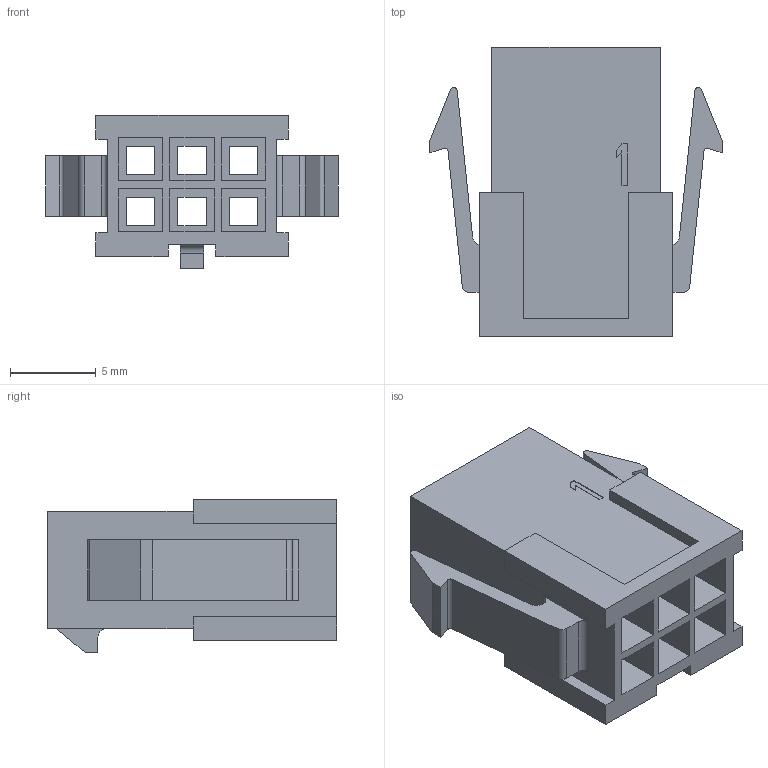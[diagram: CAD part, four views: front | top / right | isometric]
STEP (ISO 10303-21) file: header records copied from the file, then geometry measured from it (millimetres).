
FILE_DESCRIPTION((''),'2;1');
FILE_NAME('430200600','2020-04-30T',('gga'),(''),'PRO/ENGINEER BY PARAMETRIC TECHNOLOGY CORPORATION, 2016010','PRO/ENGINEER BY PARAMETRIC TECHNOLOGY CORPORATION, 2016010','');
FILE_SCHEMA(('CONFIG_CONTROL_DESIGN'));
Length unit declared in the file: millimetre
Products named in the file (1): 430200600
Bounding box: 17.08 x 16.89 x 8.95 mm (x, y, z)
Volume: 777.8 mm3; surface area: 1941.7 mm2
Topology: 1 solids, 1 shells, 160 faces, 426 edges, 284 vertices
Faces by surface type: plane 149, cylinder 11
Entity records: 4958 total; most frequent: CARTESIAN_POINT 871, ORIENTED_EDGE 852, DIRECTION 770, EDGE_CURVE 426, VECTOR 404, LINE 404, VERTEX_POINT 284, EDGE_LOOP 188
